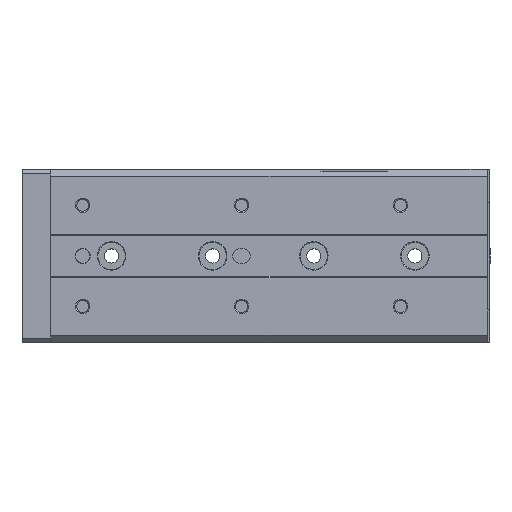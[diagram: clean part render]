
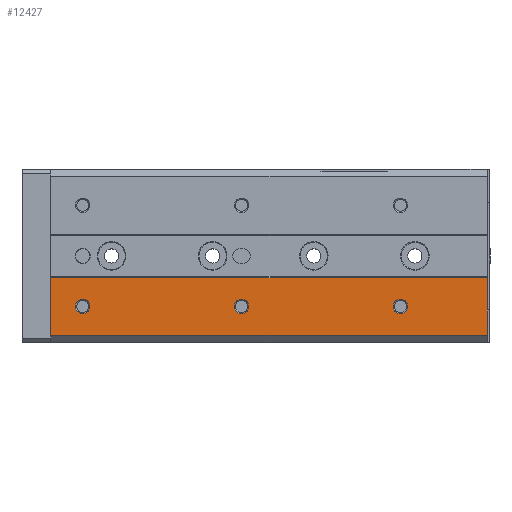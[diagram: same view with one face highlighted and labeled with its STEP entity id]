
A CAD part, top view. The second image highlights one B-rep face of the part: STEP entity #12427.
In plain terms, the highlighted planar face has unit normal (0, 0, 1).
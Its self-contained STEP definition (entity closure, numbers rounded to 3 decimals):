
#813 = LINE ( 'NONE', #1065, #3058 ) ;
#845 = ORIENTED_EDGE ( 'NONE', *, *, #10301, .F. ) ;
#971 = ORIENTED_EDGE ( 'NONE', *, *, #12147, .F. ) ;
#1065 = CARTESIAN_POINT ( 'NONE',  ( -2., -7.51, 28. ) ) ;
#1068 = PLANE ( 'NONE',  #8839 ) ;
#1182 = VECTOR ( 'NONE', #11999, 1000. ) ;
#1331 = ORIENTED_EDGE ( 'NONE', *, *, #7692, .F. ) ;
#1507 = AXIS2_PLACEMENT_3D ( 'NONE', #1698, #2897, #13781 ) ;
#1526 = ORIENTED_EDGE ( 'NONE', *, *, #2115, .F. ) ;
#1698 = CARTESIAN_POINT ( 'NONE',  ( 119., -17.5, 28. ) ) ;
#1862 = ORIENTED_EDGE ( 'NONE', *, *, #10130, .T. ) ;
#2015 = DIRECTION ( 'NONE',  ( 0., 0., 1. ) ) ;
#2115 = EDGE_CURVE ( 'NONE', #14330, #15160, #16841, .T. ) ;
#2149 = CIRCLE ( 'NONE', #9682, 2.5 ) ;
#2371 = CARTESIAN_POINT ( 'NONE',  ( -2., -27.49, 28. ) ) ;
#2870 = ORIENTED_EDGE ( 'NONE', *, *, #14879, .F. ) ;
#2897 = DIRECTION ( 'NONE',  ( 0., 0., 1. ) ) ;
#3058 = VECTOR ( 'NONE', #15659, 1000. ) ;
#3676 = FACE_BOUND ( 'NONE', #13679, .T. ) ;
#3781 = EDGE_LOOP ( 'NONE', ( #1862, #845, #11782, #2870 ) ) ;
#3839 = EDGE_CURVE ( 'NONE', #8550, #5820, #9784, .T. ) ;
#4297 = CARTESIAN_POINT ( 'NONE',  ( 119., -20., 28. ) ) ;
#4415 = DIRECTION ( 'NONE',  ( 0., -1., 0. ) ) ;
#5277 = FACE_OUTER_BOUND ( 'NONE', #3781, .T. ) ;
#5639 = EDGE_LOOP ( 'NONE', ( #15047, #6615 ) ) ;
#5651 = DIRECTION ( 'NONE',  ( 0., -1., 0. ) ) ;
#5706 = AXIS2_PLACEMENT_3D ( 'NONE', #16501, #2015, #8574 ) ;
#5711 = CARTESIAN_POINT ( 'NONE',  ( 149., 0., 28. ) ) ;
#5820 = VERTEX_POINT ( 'NONE', #6266 ) ;
#5980 = VERTEX_POINT ( 'NONE', #8067 ) ;
#6266 = CARTESIAN_POINT ( 'NONE',  ( 149., -7.51, 28. ) ) ;
#6336 = CARTESIAN_POINT ( 'NONE',  ( 9., -15., 28. ) ) ;
#6386 = DIRECTION ( 'NONE',  ( 0., 1., 0. ) ) ;
#6590 = VECTOR ( 'NONE', #14920, 1000. ) ;
#6615 = ORIENTED_EDGE ( 'NONE', *, *, #13971, .F. ) ;
#6701 = ORIENTED_EDGE ( 'NONE', *, *, #10145, .F. ) ;
#6814 = VERTEX_POINT ( 'NONE', #16567 ) ;
#7545 = DIRECTION ( 'NONE',  ( 0., 0., -1. ) ) ;
#7692 = EDGE_CURVE ( 'NONE', #10513, #16958, #11093, .T. ) ;
#8067 = CARTESIAN_POINT ( 'NONE',  ( 64., -15., 28. ) ) ;
#8204 = DIRECTION ( 'NONE',  ( 0., 0., 1. ) ) ;
#8251 = CARTESIAN_POINT ( 'NONE',  ( 9., -17.5, 28. ) ) ;
#8482 = EDGE_LOOP ( 'NONE', ( #1331, #6701 ) ) ;
#8496 = CARTESIAN_POINT ( 'NONE',  ( 64., -17.5, 28. ) ) ;
#8550 = VERTEX_POINT ( 'NONE', #13154 ) ;
#8574 = DIRECTION ( 'NONE',  ( 0., -1., 0. ) ) ;
#8839 = AXIS2_PLACEMENT_3D ( 'NONE', #16877, #7545, #6386 ) ;
#9470 = CIRCLE ( 'NONE', #10872, 2.5 ) ;
#9682 = AXIS2_PLACEMENT_3D ( 'NONE', #8251, #16075, #4415 ) ;
#9784 = LINE ( 'NONE', #15837, #1182 ) ;
#9960 = DIRECTION ( 'NONE',  ( 0., 0., 1. ) ) ;
#10099 = AXIS2_PLACEMENT_3D ( 'NONE', #8496, #9960, #12469 ) ;
#10130 = EDGE_CURVE ( 'NONE', #12432, #13961, #11774, .T. ) ;
#10145 = EDGE_CURVE ( 'NONE', #16958, #10513, #2149, .T. ) ;
#10301 = EDGE_CURVE ( 'NONE', #5820, #13961, #10533, .T. ) ;
#10385 = DIRECTION ( 'NONE',  ( 0., -1., 0. ) ) ;
#10513 = VERTEX_POINT ( 'NONE', #11585 ) ;
#10533 = LINE ( 'NONE', #5711, #6590 ) ;
#10556 = DIRECTION ( 'NONE',  ( 0., 0., 1. ) ) ;
#10862 = DIRECTION ( 'NONE',  ( 1., 0., 0. ) ) ;
#10872 = AXIS2_PLACEMENT_3D ( 'NONE', #13073, #10556, #10385 ) ;
#10965 = CARTESIAN_POINT ( 'NONE',  ( 119., -17.5, 28. ) ) ;
#11093 = CIRCLE ( 'NONE', #5706, 2.5 ) ;
#11267 = FACE_BOUND ( 'NONE', #8482, .T. ) ;
#11365 = VECTOR ( 'NONE', #10862, 1000. ) ;
#11585 = CARTESIAN_POINT ( 'NONE',  ( 9., -20., 28. ) ) ;
#11774 = LINE ( 'NONE', #16024, #11365 ) ;
#11782 = ORIENTED_EDGE ( 'NONE', *, *, #3839, .F. ) ;
#11999 = DIRECTION ( 'NONE',  ( 1., 0., 0. ) ) ;
#12147 = EDGE_CURVE ( 'NONE', #15160, #14330, #14767, .T. ) ;
#12265 = CIRCLE ( 'NONE', #10099, 2.5 ) ;
#12427 = ADVANCED_FACE ( 'NONE', ( #5277, #11267, #13938, #3676 ), #1068, .F. ) ;
#12432 = VERTEX_POINT ( 'NONE', #2371 ) ;
#12469 = DIRECTION ( 'NONE',  ( 0., -1., 0. ) ) ;
#13073 = CARTESIAN_POINT ( 'NONE',  ( 64., -17.5, 28. ) ) ;
#13154 = CARTESIAN_POINT ( 'NONE',  ( -2., -7.51, 28. ) ) ;
#13158 = EDGE_CURVE ( 'NONE', #6814, #5980, #12265, .T. ) ;
#13679 = EDGE_LOOP ( 'NONE', ( #971, #1526 ) ) ;
#13781 = DIRECTION ( 'NONE',  ( 0., -1., 0. ) ) ;
#13938 = FACE_BOUND ( 'NONE', #5639, .T. ) ;
#13961 = VERTEX_POINT ( 'NONE', #14508 ) ;
#13971 = EDGE_CURVE ( 'NONE', #5980, #6814, #9470, .T. ) ;
#14243 = CARTESIAN_POINT ( 'NONE',  ( 119., -15., 28. ) ) ;
#14330 = VERTEX_POINT ( 'NONE', #14243 ) ;
#14508 = CARTESIAN_POINT ( 'NONE',  ( 149., -27.49, 28. ) ) ;
#14767 = CIRCLE ( 'NONE', #1507, 2.5 ) ;
#14879 = EDGE_CURVE ( 'NONE', #12432, #8550, #813, .T. ) ;
#14920 = DIRECTION ( 'NONE',  ( 0., -1., 0. ) ) ;
#15047 = ORIENTED_EDGE ( 'NONE', *, *, #13158, .F. ) ;
#15160 = VERTEX_POINT ( 'NONE', #4297 ) ;
#15659 = DIRECTION ( 'NONE',  ( 0., 1., 0. ) ) ;
#15837 = CARTESIAN_POINT ( 'NONE',  ( 149., -7.51, 28. ) ) ;
#16024 = CARTESIAN_POINT ( 'NONE',  ( 149., -27.49, 28. ) ) ;
#16075 = DIRECTION ( 'NONE',  ( 0., 0., 1. ) ) ;
#16479 = AXIS2_PLACEMENT_3D ( 'NONE', #10965, #8204, #5651 ) ;
#16501 = CARTESIAN_POINT ( 'NONE',  ( 9., -17.5, 28. ) ) ;
#16567 = CARTESIAN_POINT ( 'NONE',  ( 64., -20., 28. ) ) ;
#16841 = CIRCLE ( 'NONE', #16479, 2.5 ) ;
#16877 = CARTESIAN_POINT ( 'NONE',  ( 149., -7.51, 28. ) ) ;
#16958 = VERTEX_POINT ( 'NONE', #6336 ) ;
